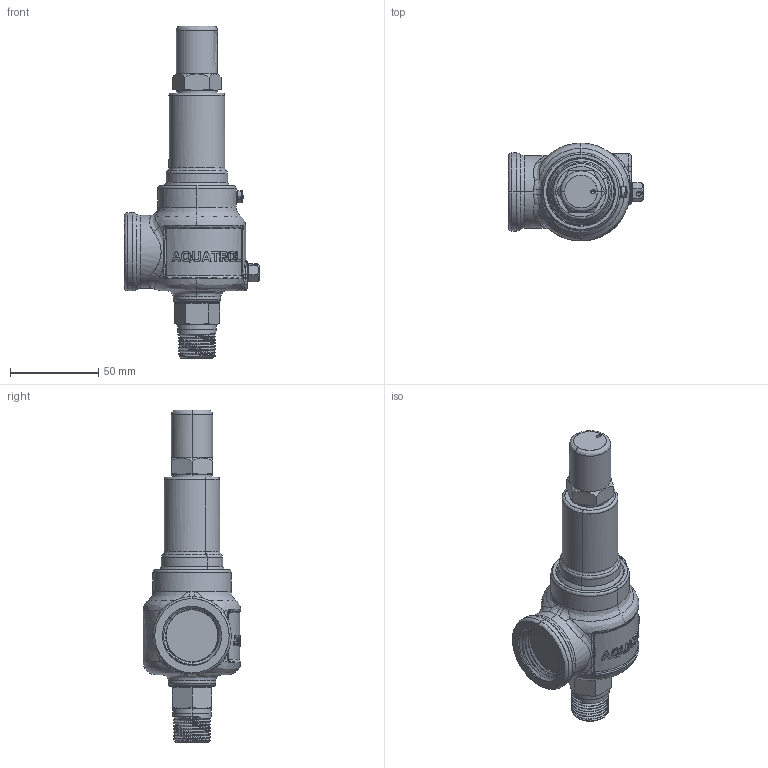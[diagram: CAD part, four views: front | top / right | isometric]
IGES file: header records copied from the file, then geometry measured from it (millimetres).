
Start section: SolidWorks IGES file using NURBS representation for surfaces
Global section: file name: C:\Design\Design\Aquatrol\Customer 3D Files\Series 740 Customer Files\D Orifice\Customer\Iges Files\Series 740 D 500 x 1000 Closed Cap.IGS; native system: SolidWorks 2015; preprocessor: SolidWorks 2015; author: Karl; date: 150515.081326; units: inch
Bounding box: 76.94 x 55.56 x 188.56 mm (x, y, z)
Surface area: 29437.8 mm2 (no closed solid volume)
Topology: 0 solids, 0 shells, 365 faces, 6252 edges, 6252 vertices
Faces by surface type: bspline 365
